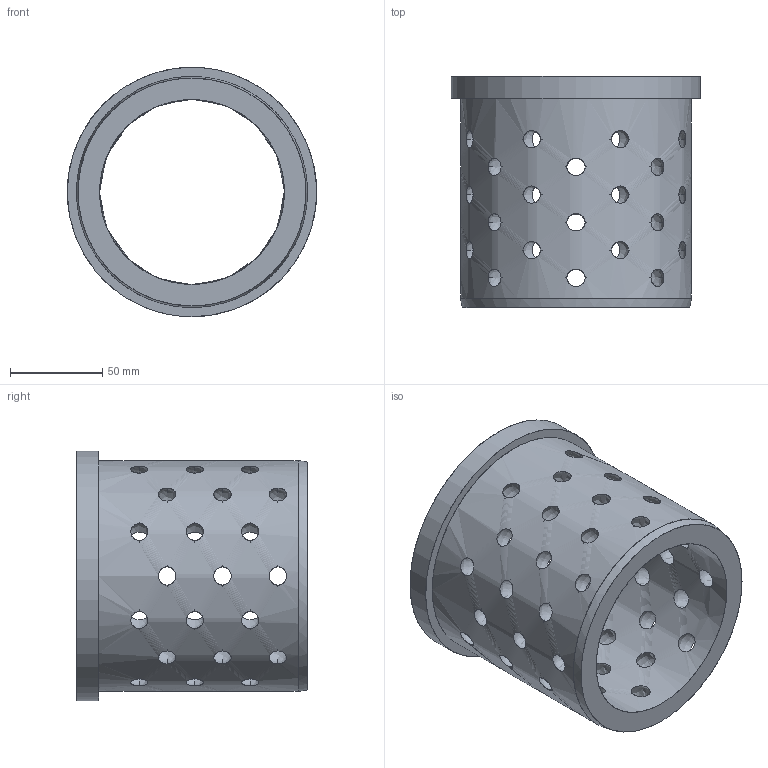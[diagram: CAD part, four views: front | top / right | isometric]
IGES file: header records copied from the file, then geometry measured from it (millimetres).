
Start section: Missler Software BP 521, 31674 Labege Cedex, France Tel   : +33 (0)5 61 00 03 00 Fax   : +33 (0)5 61 00 03 03 Email : sup.topsolid@topsolid.com
Global section: file name: C:\Documents and Settings\EXPER\Desktop\Cuma\D31 Serisi\D31_100125.igs; native system: TopSolid v605250 Missler Software; preprocessor: IGES preprocessor v100000; date: 030101.010317; units: millimetre
Bounding box: 135 x 125 x 135 mm (x, y, z)
Surface area: 123237.4 mm2 (no closed solid volume)
Topology: 0 solids, 0 shells, 56 faces, 3392 edges, 3290 vertices
Faces by surface type: bspline 56
